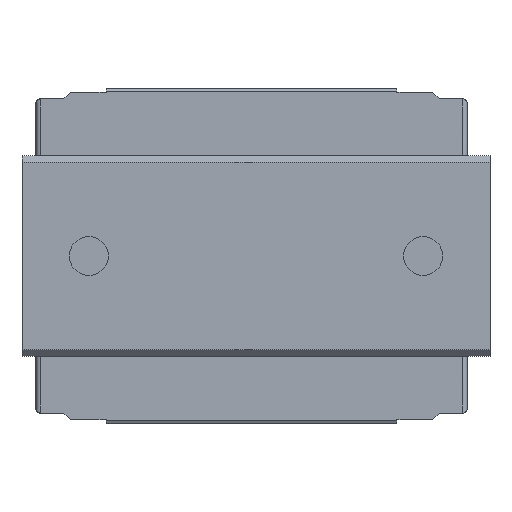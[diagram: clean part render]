
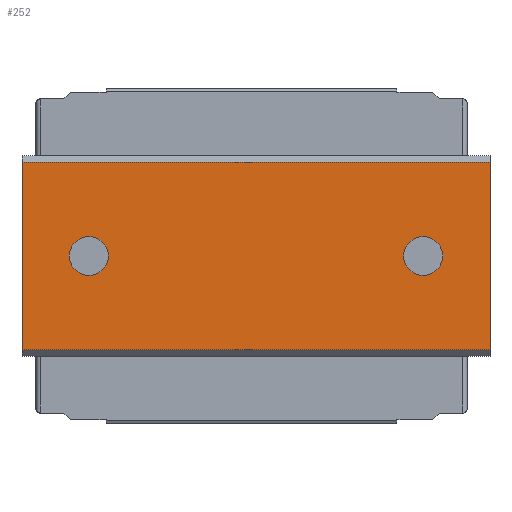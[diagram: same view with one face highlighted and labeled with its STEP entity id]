
A CAD part, front view. The second image highlights one B-rep face of the part: STEP entity #252.
In plain terms, the highlighted planar face has unit normal (0, -1, 0).
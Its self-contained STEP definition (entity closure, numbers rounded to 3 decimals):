
#252 = ADVANCED_FACE( '', ( #553, #554, #555 ), #556, .F. );
#553 = FACE_BOUND( '', #921, .T. );
#554 = FACE_BOUND( '', #922, .T. );
#555 = FACE_OUTER_BOUND( '', #923, .T. );
#556 = PLANE( '', #924 );
#921 = EDGE_LOOP( '', ( #1474 ) );
#922 = EDGE_LOOP( '', ( #1475 ) );
#923 = EDGE_LOOP( '', ( #1476, #1477, #1478, #1479 ) );
#924 = AXIS2_PLACEMENT_3D( '', #1480, #1481, #1482 );
#1474 = ORIENTED_EDGE( '', *, *, #2289, .T. );
#1475 = ORIENTED_EDGE( '', *, *, #2147, .T. );
#1476 = ORIENTED_EDGE( '', *, *, #2290, .T. );
#1477 = ORIENTED_EDGE( '', *, *, #2200, .F. );
#1478 = ORIENTED_EDGE( '', *, *, #2291, .F. );
#1479 = ORIENTED_EDGE( '', *, *, #2292, .T. );
#1480 = CARTESIAN_POINT( '', ( 21., 0., 8.4 ) );
#1481 = DIRECTION( '', ( 0., 1., 0. ) );
#1482 = DIRECTION( '', ( 0., 0., 1. ) );
#2147 = EDGE_CURVE( '', #2548, #2548, #2549, .T. );
#2200 = EDGE_CURVE( '', #2635, #2630, #2637, .T. );
#2289 = EDGE_CURVE( '', #2776, #2776, #2777, .T. );
#2290 = EDGE_CURVE( '', #2778, #2630, #2779, .T. );
#2291 = EDGE_CURVE( '', #2780, #2635, #2781, .T. );
#2292 = EDGE_CURVE( '', #2780, #2778, #2782, .T. );
#2548 = VERTEX_POINT( '', #3123 );
#2549 = CIRCLE( '', #3124, 1.75 );
#2630 = VERTEX_POINT( '', #3232 );
#2635 = VERTEX_POINT( '', #3239 );
#2637 = LINE( '', #3242, #3243 );
#2776 = VERTEX_POINT( '', #3430 );
#2777 = CIRCLE( '', #3431, 1.75 );
#2778 = VERTEX_POINT( '', #3432 );
#2779 = LINE( '', #3433, #3434 );
#2780 = VERTEX_POINT( '', #3435 );
#2781 = LINE( '', #3436, #3437 );
#2782 = LINE( '', #3438, #3439 );
#3123 = CARTESIAN_POINT( '', ( -15., 0., 1.75 ) );
#3124 = AXIS2_PLACEMENT_3D( '', #3819, #3820, #3821 );
#3232 = CARTESIAN_POINT( '', ( -21., 0., -8.4 ) );
#3239 = CARTESIAN_POINT( '', ( 21., 0., -8.4 ) );
#3242 = CARTESIAN_POINT( '', ( 21., 0., -8.4 ) );
#3243 = VECTOR( '', #3879, 1000. );
#3430 = CARTESIAN_POINT( '', ( 15., 0., 1.75 ) );
#3431 = AXIS2_PLACEMENT_3D( '', #3988, #3989, #3990 );
#3432 = CARTESIAN_POINT( '', ( -21., 0., 8.4 ) );
#3433 = CARTESIAN_POINT( '', ( -21., 0., 8.4 ) );
#3434 = VECTOR( '', #3991, 1000. );
#3435 = CARTESIAN_POINT( '', ( 21., 0., 8.4 ) );
#3436 = CARTESIAN_POINT( '', ( 21., 0., 8.4 ) );
#3437 = VECTOR( '', #3992, 1000. );
#3438 = CARTESIAN_POINT( '', ( 21., 0., 8.4 ) );
#3439 = VECTOR( '', #3993, 1000. );
#3819 = CARTESIAN_POINT( '', ( -15., 0., 0. ) );
#3820 = DIRECTION( '', ( 0., 1., 0. ) );
#3821 = DIRECTION( '', ( 0., 0., 1. ) );
#3879 = DIRECTION( '', ( -1., 0., 0. ) );
#3988 = CARTESIAN_POINT( '', ( 15., 0., 0. ) );
#3989 = DIRECTION( '', ( 0., 1., 0. ) );
#3990 = DIRECTION( '', ( 0., 0., 1. ) );
#3991 = DIRECTION( '', ( 0., 0., -1. ) );
#3992 = DIRECTION( '', ( 0., 0., -1. ) );
#3993 = DIRECTION( '', ( -1., 0., 0. ) );
